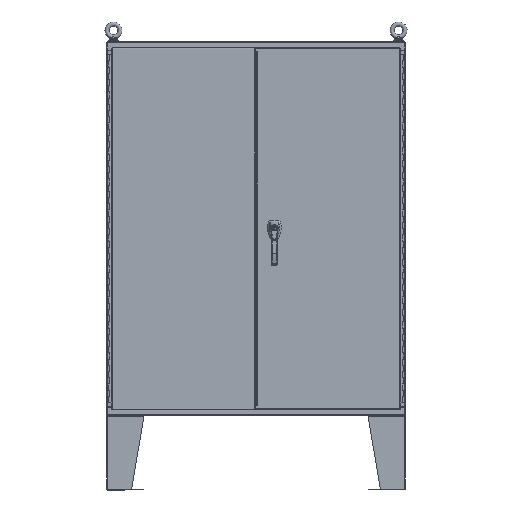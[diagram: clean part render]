
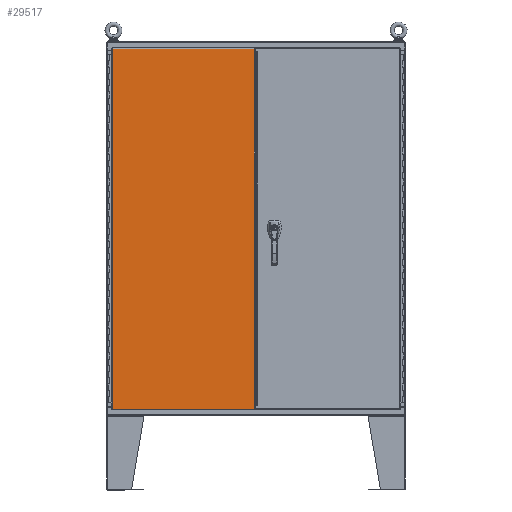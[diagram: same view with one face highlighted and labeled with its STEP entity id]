
A CAD part, front view. The second image highlights one B-rep face of the part: STEP entity #29517.
In plain terms, the highlighted planar face has unit normal (0, -1, 0).
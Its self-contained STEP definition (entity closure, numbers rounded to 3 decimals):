
#8071=ORIENTED_EDGE('',*,*,#13937,.T.);
#8072=ORIENTED_EDGE('',*,*,#13946,.T.);
#8073=ORIENTED_EDGE('',*,*,#13947,.F.);
#8074=ORIENTED_EDGE('',*,*,#13945,.T.);
#8075=ORIENTED_EDGE('',*,*,#13928,.T.);
#8076=ORIENTED_EDGE('',*,*,#13926,.T.);
#13926=EDGE_CURVE('',#17247,#17243,#20115,.T.);
#13928=EDGE_CURVE('',#17257,#17247,#20116,.T.);
#13937=EDGE_CURVE('',#17243,#17262,#20124,.T.);
#13945=EDGE_CURVE('',#17266,#17257,#20130,.T.);
#13946=EDGE_CURVE('',#17262,#17267,#20131,.T.);
#13947=EDGE_CURVE('',#17266,#17267,#20132,.T.);
#17243=VERTEX_POINT('',#47175);
#17247=VERTEX_POINT('',#47184);
#17257=VERTEX_POINT('',#47229);
#17262=VERTEX_POINT('',#47247);
#17266=VERTEX_POINT('',#47262);
#17267=VERTEX_POINT('',#47267);
#20115=LINE('',#47226,#22787);
#20116=LINE('',#47230,#22788);
#20124=LINE('',#47248,#22796);
#20130=LINE('',#47264,#22802);
#20131=LINE('',#47266,#22803);
#20132=LINE('',#47268,#22804);
#22787=VECTOR('',#38237,1000.);
#22788=VECTOR('',#38242,1000.);
#22796=VECTOR('',#38260,1000.);
#22802=VECTOR('',#38278,1000.);
#22803=VECTOR('',#38281,1000.);
#22804=VECTOR('',#38282,1000.);
#24874=EDGE_LOOP('',(#8071,#8072,#8073,#8074,#8075,#8076));
#26795=FACE_BOUND('',#24874,.T.);
#28174=PLANE('',#32131);
#29517=ADVANCED_FACE('',(#26795),#28174,.F.);
#32131=AXIS2_PLACEMENT_3D('',#47265,#38279,#38280);
#38237=DIRECTION('',(0.,0.,-1.));
#38242=DIRECTION('',(-1.,0.,0.));
#38260=DIRECTION('',(1.,0.,0.));
#38278=DIRECTION('',(0.,0.,1.));
#38279=DIRECTION('',(0.,1.,0.));
#38280=DIRECTION('',(0.,0.,1.));
#38281=DIRECTION('',(0.,0.,1.));
#38282=DIRECTION('',(0.,0.,-1.));
#47175=CARTESIAN_POINT('',(-290.055,0.,-1193.343));
#47184=CARTESIAN_POINT('',(-290.055,0.,278.943));
#47226=CARTESIAN_POINT('',(-290.055,0.,278.943));
#47229=CARTESIAN_POINT('',(290.055,0.,278.943));
#47230=CARTESIAN_POINT('',(290.055,0.,278.943));
#47247=CARTESIAN_POINT('',(290.055,0.,-1193.343));
#47248=CARTESIAN_POINT('',(-290.055,0.,-1193.343));
#47262=CARTESIAN_POINT('',(290.055,0.,269.443));
#47264=CARTESIAN_POINT('',(290.055,0.,269.443));
#47265=CARTESIAN_POINT('',(-290.055,0.,278.943));
#47266=CARTESIAN_POINT('',(290.055,0.,269.443));
#47267=CARTESIAN_POINT('',(290.055,0.,-1183.843));
#47268=CARTESIAN_POINT('',(290.055,0.,269.443));
